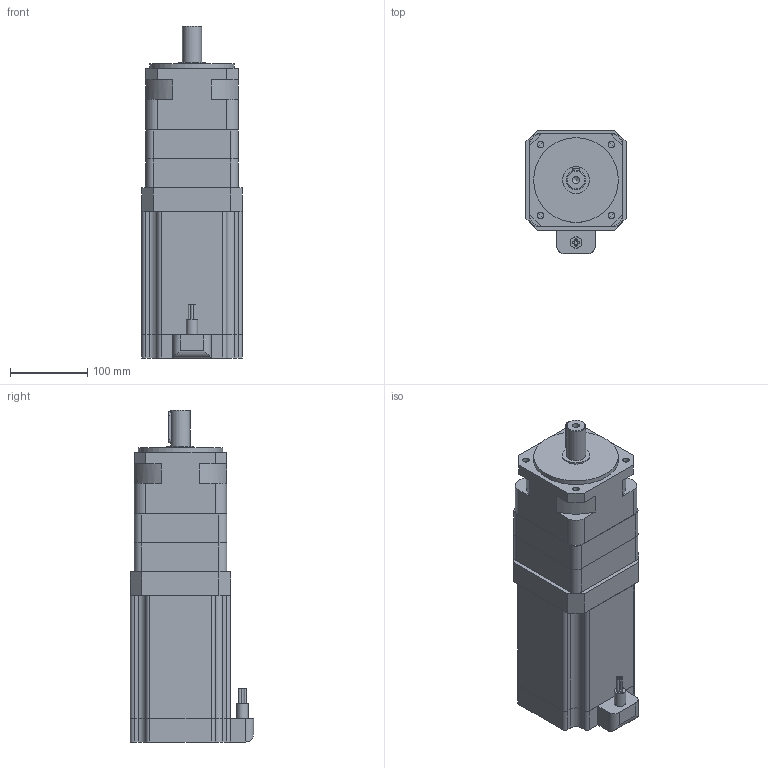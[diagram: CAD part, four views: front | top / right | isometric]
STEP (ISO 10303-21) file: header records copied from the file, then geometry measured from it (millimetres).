
FILE_DESCRIPTION(/* description */ (''),/* implementation_level */ '2;1');
FILE_NAME(/* name */ '120PG004-D60-04221.stp',/* time_stamp */ '2018-08-24T10:58:54+08:00',/* author */ (''),/* organization */ (''),/* preprocessor_version */ 'ST-DEVELOPER v11',/* originating_system */ 'SIEMENS UGS NX 6.0',/* authorisation */ '');
FILE_SCHEMA (('CONFIG_CONTROL_DESIGN'));
Length unit declared in the file: millimetre
Products named in the file (1): 120PG004-D60-04221
Bounding box: 130 x 160 x 431 mm (x, y, z)
Volume: 5716082.2 mm3; surface area: 373884.7 mm2
Topology: 6 solids, 6 shells, 147 faces, 384 edges, 254 vertices
Faces by surface type: plane 87, cylinder 58, cone 1, torus 1
Full cylindrical faces by diameter (mm): 3 x4, 8.5 x4, 9 x1, 15 x1, 25 x1, 35 x1, 110 x1
Entity records: 4513 total; most frequent: CARTESIAN_POINT 810, DIRECTION 777, ORIENTED_EDGE 716, EDGE_CURVE 358, AXIS2_PLACEMENT_3D 273, VERTEX_POINT 244, LINE 231, VECTOR 231
